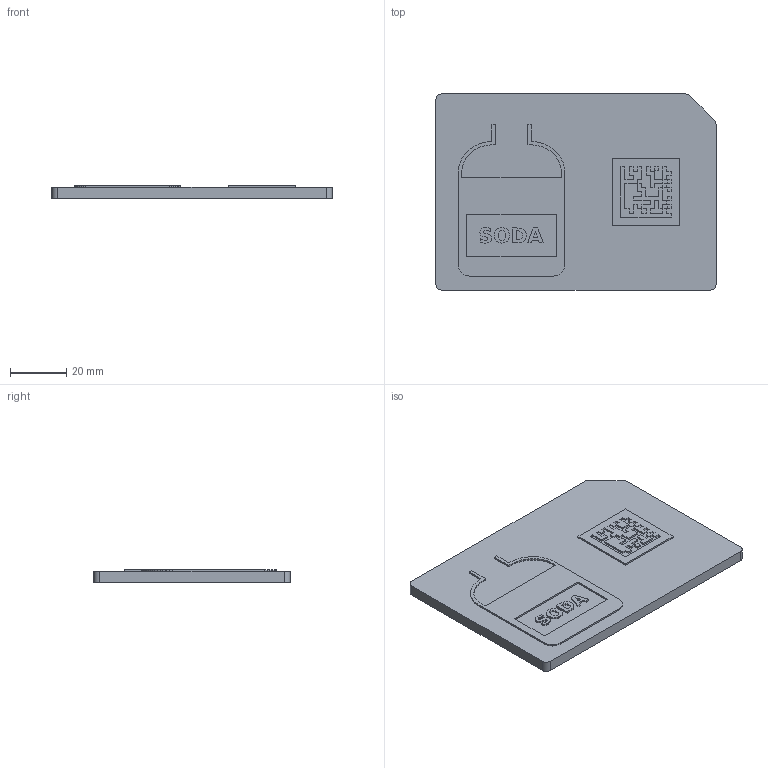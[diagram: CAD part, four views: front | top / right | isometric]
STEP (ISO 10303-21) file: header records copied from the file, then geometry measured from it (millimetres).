
FILE_DESCRIPTION(('Open CASCADE Model'),'2;1');
FILE_NAME('Open CASCADE Shape Model','2026-10-14T18:09:55',('Author'),( 'Open CASCADE'),'Open CASCADE STEP processor 7.9','Open CASCADE 7.9' ,'Unknown');
FILE_SCHEMA(('AUTOMOTIVE_DESIGN { 1 0 10303 214 1 1 1 1 }'));
Length unit declared in the file: millimetre
Products named in the file (3): SN-4802; SN-4802_base_dark; SN-4802_features_red
Assembly tree (2 placements, depth 2):
  SN-4802
    SN-4802_base_dark
    SN-4802_features_red
Bounding box: 100 x 70 x 4.6 mm (x, y, z)
Volume: 28619.5 mm3; surface area: 19728.1 mm2
Topology: 7 solids, 7 shells, 725 faces, 2076 edges, 1384 vertices
Faces by surface type: plane 720, cylinder 5
Entity records: 49631 total; most frequent: CARTESIAN_POINT 9034, DIRECTION 7010, LINE 5526, VECTOR 5526, ORIENTED_EDGE 4152, PCURVE 4152, DEFINITIONAL_REPRESENTATION 4152, EDGE_CURVE 2076
